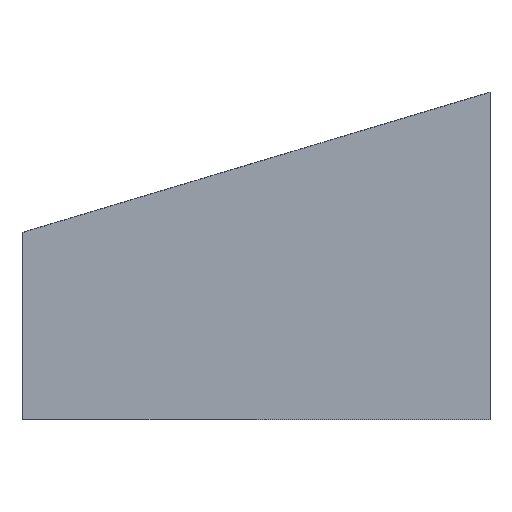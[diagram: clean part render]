
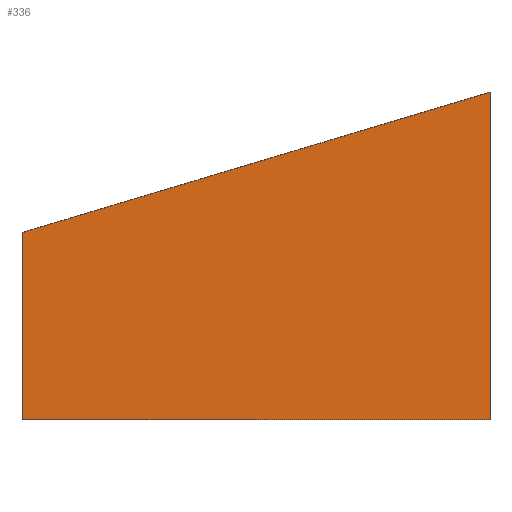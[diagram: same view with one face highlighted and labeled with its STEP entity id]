
A CAD part, front view. The second image highlights one B-rep face of the part: STEP entity #336.
In plain terms, the highlighted planar face has unit normal (0, -1, 0).
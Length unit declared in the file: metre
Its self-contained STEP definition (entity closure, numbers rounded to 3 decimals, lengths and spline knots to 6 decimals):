
#47=LINE('',#540,#59);
#51=LINE('',#554,#63);
#54=LINE('',#560,#66);
#56=LINE('',#575,#68);
#59=VECTOR('',#429,1.);
#63=VECTOR('',#441,1.);
#66=VECTOR('',#446,1.);
#68=VECTOR('',#462,1.);
#97=ORIENTED_EDGE('',*,*,#146,.F.);
#98=ORIENTED_EDGE('',*,*,#153,.T.);
#99=ORIENTED_EDGE('',*,*,#156,.T.);
#100=ORIENTED_EDGE('',*,*,#164,.F.);
#146=EDGE_CURVE('',#182,#183,#47,.T.);
#153=EDGE_CURVE('',#182,#188,#51,.T.);
#156=EDGE_CURVE('',#188,#190,#54,.T.);
#164=EDGE_CURVE('',#183,#190,#56,.T.);
#182=VERTEX_POINT('',#539);
#183=VERTEX_POINT('',#541);
#188=VERTEX_POINT('',#553);
#190=VERTEX_POINT('',#559);
#228=EDGE_LOOP('',(#97,#98,#99,#100));
#282=FACE_BOUND('',#228,.T.);
#324=PLANE('',#385);
#336=ADVANCED_FACE('',(#282),#324,.T.);
#385=AXIS2_PLACEMENT_3D('',#576,#463,#464);
#429=DIRECTION('',(0.958,0.,0.287));
#441=DIRECTION('',(0.,0.,-1.));
#446=DIRECTION('',(1.,0.,0.));
#462=DIRECTION('',(0.,0.,-1.));
#463=DIRECTION('',(0.,-1.,0.));
#464=DIRECTION('',(1.,0.,0.));
#539=CARTESIAN_POINT('',(0.,-0.05,0.));
#540=CARTESIAN_POINT('',(0.025,-0.05,0.0075));
#541=CARTESIAN_POINT('',(0.05,-0.05,0.015));
#553=CARTESIAN_POINT('',(0.,-0.05,-0.02));
#554=CARTESIAN_POINT('',(0.,-0.05,-0.01));
#559=CARTESIAN_POINT('',(0.05,-0.05,-0.02));
#560=CARTESIAN_POINT('',(0.025,-0.05,-0.02));
#575=CARTESIAN_POINT('',(0.05,-0.05,-0.0125));
#576=CARTESIAN_POINT('',(0.025,-0.05,-0.0025));
